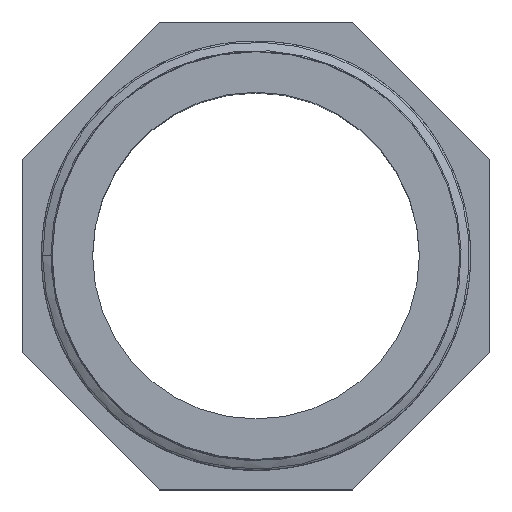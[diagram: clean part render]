
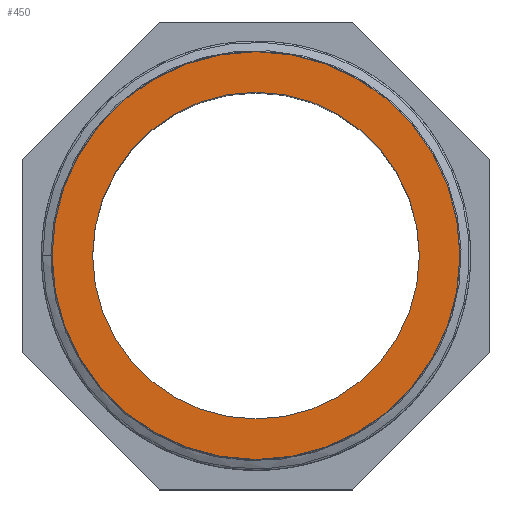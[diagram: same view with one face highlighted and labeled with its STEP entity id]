
A CAD part, top view. The second image highlights one B-rep face of the part: STEP entity #450.
In plain terms, the highlighted planar face has unit normal (0, 0, 1).
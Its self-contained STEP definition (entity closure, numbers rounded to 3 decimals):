
#25=CIRCLE('',#474,28.328);
#26=CIRCLE('',#476,22.7);
#42=FACE_BOUND('',#123,.T.);
#91=FACE_OUTER_BOUND('',#122,.T.);
#122=EDGE_LOOP('',(#408));
#123=EDGE_LOOP('',(#409));
#221=VERTEX_POINT('',#9143);
#222=VERTEX_POINT('',#9166);
#283=EDGE_CURVE('',#221,#221,#25,.T.);
#284=EDGE_CURVE('',#222,#222,#26,.T.);
#408=ORIENTED_EDGE('',*,*,#283,.T.);
#409=ORIENTED_EDGE('',*,*,#284,.T.);
#423=PLANE('',#479);
#450=ADVANCED_FACE('',(#91,#42),#423,.T.);
#474=AXIS2_PLACEMENT_3D('',#9164,#554,#555);
#476=AXIS2_PLACEMENT_3D('',#9167,#558,#559);
#479=AXIS2_PLACEMENT_3D('',#9171,#564,#565);
#554=DIRECTION('center_axis',(0.,0.,1.));
#555=DIRECTION('ref_axis',(-1.,0.,0.));
#558=DIRECTION('center_axis',(0.,0.,-1.));
#559=DIRECTION('ref_axis',(-1.,0.,0.));
#564=DIRECTION('center_axis',(0.,0.,1.));
#565=DIRECTION('ref_axis',(1.,0.,0.));
#9143=CARTESIAN_POINT('',(-28.328,0.,33.));
#9164=CARTESIAN_POINT('Origin',(0.,0.,33.));
#9166=CARTESIAN_POINT('',(22.7,0.,33.));
#9167=CARTESIAN_POINT('Origin',(0.,0.,33.));
#9171=CARTESIAN_POINT('Origin',(0.,0.,33.));
